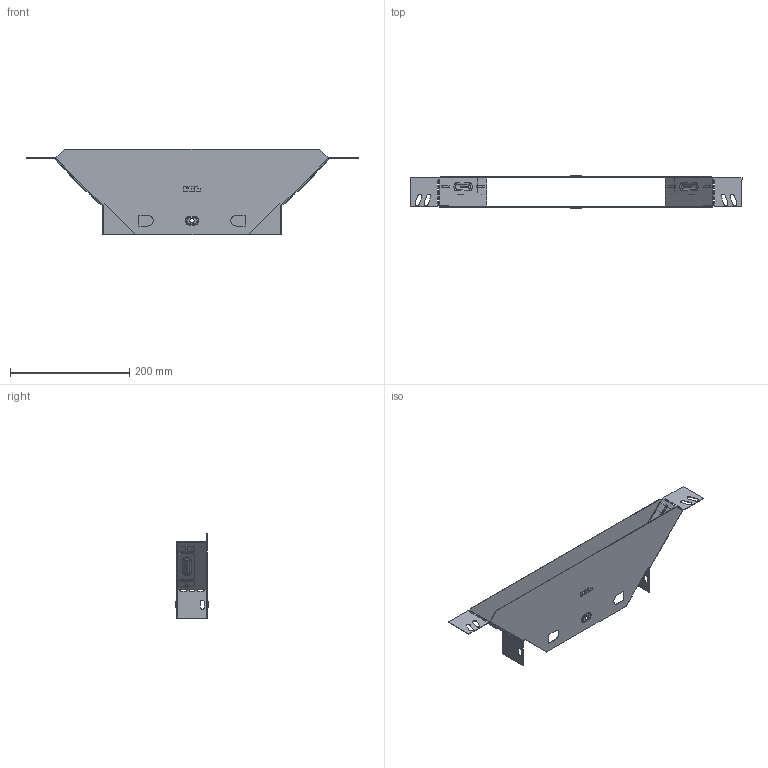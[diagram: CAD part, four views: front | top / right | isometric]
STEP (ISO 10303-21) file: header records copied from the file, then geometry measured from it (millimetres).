
FILE_DESCRIPTION (( 'STEP AP214' ), '1' );
FILE_NAME ('tn5030008_捘.STEP', '2019-06-10T08:00:19', ( '砐錪賧瘔蠈錪 Windows' ), ( '' ), 'SwSTEP 2.0', 'SolidWorks 2018', '' );
FILE_SCHEMA (( 'AUTOMOTIVE_DESIGN' ));
Length unit declared in the file: millimetre
Products named in the file (1): tn5030008_捘
Bounding box: 556.02 x 53.8 x 144 mm (x, y, z)
Volume: 93827.1 mm3; surface area: 237871.2 mm2
Topology: 2 solids, 2 shells, 580 faces, 1608 edges, 1024 vertices
Faces by surface type: plane 350, cylinder 164, torus 48, bspline 18
Entity records: 19335 total; most frequent: CARTESIAN_POINT 4171, ORIENTED_EDGE 3216, DIRECTION 3098, EDGE_CURVE 1608, LINE 1172, VECTOR 1172, VERTEX_POINT 1024, AXIS2_PLACEMENT_3D 963
